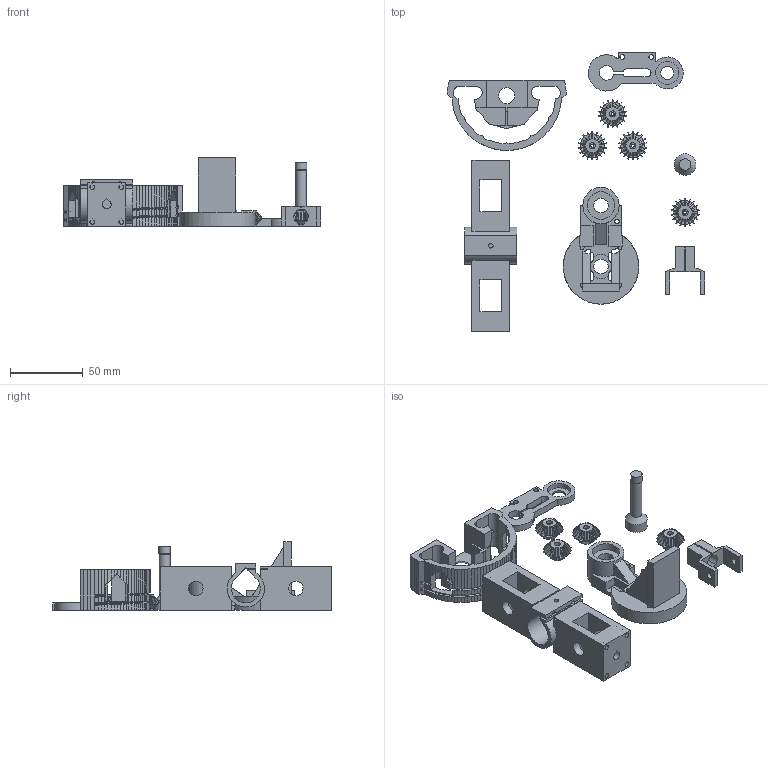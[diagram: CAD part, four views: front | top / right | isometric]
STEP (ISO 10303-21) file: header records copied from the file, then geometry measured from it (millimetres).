
FILE_DESCRIPTION(('Open CASCADE Model'),'2;1');
FILE_NAME('Open CASCADE Shape Model','2026-10-16T15:25:19',('Author'),( 'Open CASCADE'),'Open CASCADE STEP processor 7.8','build123d', 'Unknown');
FILE_SCHEMA(('AUTOMOTIVE_DESIGN { 1 0 10303 214 1 1 1 1 }'));
Products named in the file (1): COMPOUND
Bounding box: 177.49 x 192.25 x 47.2 mm (x, y, z)
Volume: 137857.9 mm3; surface area: 69839.8 mm2
Topology: 10 solids, 10 shells, 953 faces, 2757 edges, 1823 vertices
Faces by surface type: plane 502, bspline 256, cylinder 116, cone 79
Full cylindrical faces by diameter (mm): 2 x2, 2.2 x4, 2.6 x2, 3 x1, 3.1 x1, 3.2 x2, 3.3 x2, 3.4 x2, 4.2 x4, 7.5 x1, 7.96 x1, 9 x1, 10 x6, 10.5 x4, 15 x1, 16 x1, 19 x1, 25 x1
Entity records: 93409 total; most frequent: CARTESIAN_POINT 43996, DIRECTION 7359, ORIENTED_EDGE 5514, PCURVE 5514, DEFINITIONAL_REPRESENTATION 5514, LINE 4774, VECTOR 4774, EDGE_CURVE 2757
